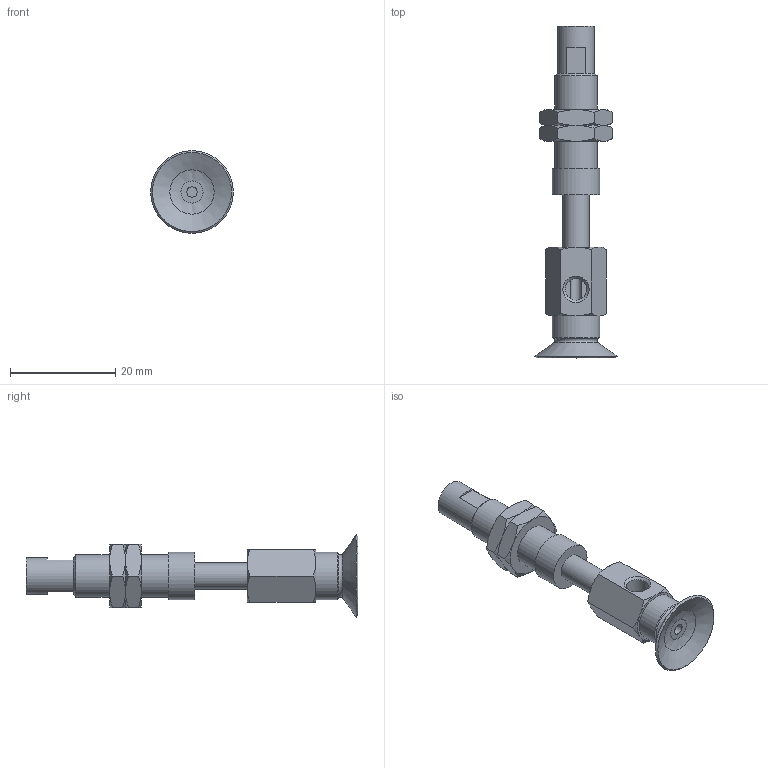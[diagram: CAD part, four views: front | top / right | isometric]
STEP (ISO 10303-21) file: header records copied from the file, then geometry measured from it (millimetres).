
FILE_DESCRIPTION(('STEP AP203'),'1');
FILE_NAME('.stp','2025-04-09T07:02:27',(' '),(' '),'Spatial InterOp 3D',' ',' ');
FILE_SCHEMA(('CONFIG_CONTROL_DESIGN'));
Length unit declared in the file: millimetre
Products named in the file (6): BNABPFYS-15A-10-※; CONNECTOR-15A-10; Nut-15A-10-s; NAPFTS-15A-10-FBODY; NAPFTS-15A-10-MBODY; BPFG-15A-※
Assembly tree (6 placements, depth 2):
  BNABPFYS-15A-10-※
    CONNECTOR-15A-10
    Nut-15A-10-s  x2
    NAPFTS-15A-10-FBODY
    NAPFTS-15A-10-MBODY
    BPFG-15A-※
Bounding box: 15.7 x 63 x 15.7 mm (x, y, z)
Volume: 3614 mm3; surface area: 4397.7 mm2
Topology: 6 solids, 6 shells, 129 faces, 270 edges, 162 vertices
Faces by surface type: plane 51, cone 51, cylinder 17, torus 9, bspline 1
Full cylindrical faces by diameter (mm): 2 x2, 4 x2, 4.134 x2, 5 x3, 6 x2, 7 x1, 7.188 x2, 8 x1, 9 x2
Entity records: 3131 total; most frequent: CARTESIAN_POINT 792, DIRECTION 430, ORIENTED_EDGE 354, AXIS2_PLACEMENT_3D 195, EDGE_CURVE 177, EDGE_LOOP 162, FACE_OUTER_BOUND 132, VERTEX_POINT 127
